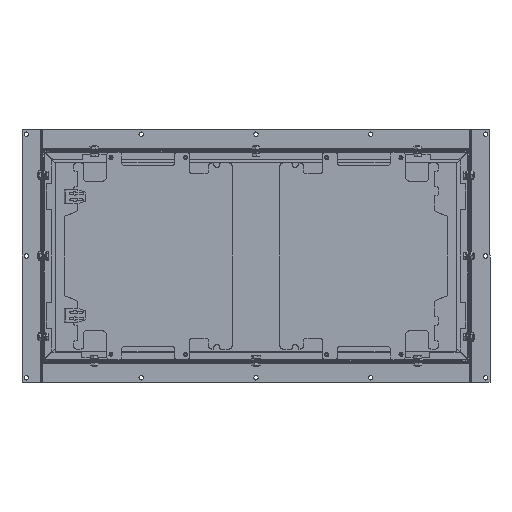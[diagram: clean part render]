
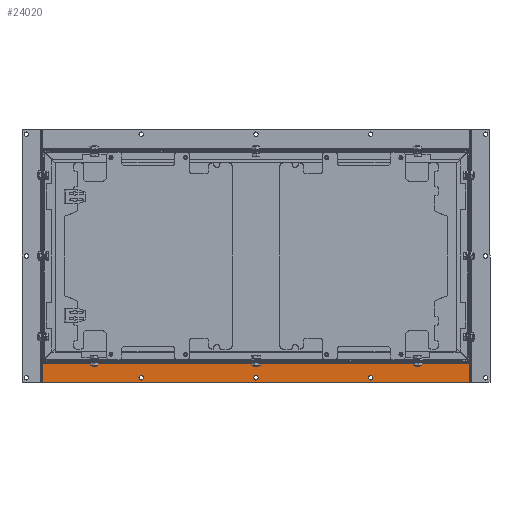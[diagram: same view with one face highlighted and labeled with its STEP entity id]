
A CAD part, front view. The second image highlights one B-rep face of the part: STEP entity #24020.
In plain terms, the highlighted planar face has unit normal (0, -1, 0).
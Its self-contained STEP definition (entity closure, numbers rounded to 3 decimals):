
#1014 = FACE_BOUND ( 'NONE', #46901, .T. ) ;
#1060 = CARTESIAN_POINT ( 'NONE',  ( -212.786, 1., -226. ) ) ;
#1394 = VECTOR ( 'NONE', #18277, 1000. ) ;
#1639 = DIRECTION ( 'NONE',  ( 0., 1., 0. ) ) ;
#1841 = DIRECTION ( 'NONE',  ( 0., 1., 0. ) ) ;
#1911 = VERTEX_POINT ( 'NONE', #36309 ) ;
#2635 = AXIS2_PLACEMENT_3D ( 'NONE', #1060, #59618, #59110 ) ;
#2832 = DIRECTION ( 'NONE',  ( 0., 0., -1. ) ) ;
#3156 = EDGE_CURVE ( 'NONE', #27635, #18925, #59965, .T. ) ;
#3172 = LINE ( 'NONE', #18085, #45046 ) ;
#4152 = CARTESIAN_POINT ( 'NONE',  ( 396.214, 1., -234. ) ) ;
#5004 = VERTEX_POINT ( 'NONE', #25391 ) ;
#5684 = ORIENTED_EDGE ( 'NONE', *, *, #3156, .T. ) ;
#6554 = VERTEX_POINT ( 'NONE', #61493 ) ;
#7152 = EDGE_CURVE ( 'NONE', #54547, #73920, #65801, .T. ) ;
#7921 = DIRECTION ( 'NONE',  ( 0., 0., -1. ) ) ;
#8133 = EDGE_CURVE ( 'NONE', #6554, #42869, #11890, .T. ) ;
#10285 = ORIENTED_EDGE ( 'NONE', *, *, #45305, .F. ) ;
#11890 = CIRCLE ( 'NONE', #2635, 4. ) ;
#15144 = CARTESIAN_POINT ( 'NONE',  ( 213.214, 1., -230. ) ) ;
#16354 = CARTESIAN_POINT ( 'NONE',  ( 0.214, 1., -226. ) ) ;
#17946 = PLANE ( 'NONE',  #28292 ) ;
#18085 = CARTESIAN_POINT ( 'NONE',  ( -395.786, 1., -200. ) ) ;
#18277 = DIRECTION ( 'NONE',  ( 0., 0., 1. ) ) ;
#18925 = VERTEX_POINT ( 'NONE', #15144 ) ;
#20772 = ORIENTED_EDGE ( 'NONE', *, *, #8133, .T. ) ;
#22196 = DIRECTION ( 'NONE',  ( 0., 0., -1. ) ) ;
#22550 = ORIENTED_EDGE ( 'NONE', *, *, #75018, .T. ) ;
#22588 = CARTESIAN_POINT ( 'NONE',  ( 0.214, 1., -222. ) ) ;
#22718 = CARTESIAN_POINT ( 'NONE',  ( -212.786, 1., -226. ) ) ;
#23335 = CARTESIAN_POINT ( 'NONE',  ( 213.214, 1., -222. ) ) ;
#23839 = CIRCLE ( 'NONE', #74772, 4. ) ;
#23871 = CARTESIAN_POINT ( 'NONE',  ( -395.786, 1., -234. ) ) ;
#24020 = ADVANCED_FACE ( 'NONE', ( #62946, #1014, #52921, #51120 ), #17946, .T. ) ;
#25391 = CARTESIAN_POINT ( 'NONE',  ( 396.214, 1., -200. ) ) ;
#26115 = CIRCLE ( 'NONE', #30408, 4. ) ;
#26436 = EDGE_LOOP ( 'NONE', ( #75163, #22550 ) ) ;
#27635 = VERTEX_POINT ( 'NONE', #23335 ) ;
#28292 = AXIS2_PLACEMENT_3D ( 'NONE', #64533, #35775, #29897 ) ;
#29279 = AXIS2_PLACEMENT_3D ( 'NONE', #22718, #64218, #46411 ) ;
#29897 = DIRECTION ( 'NONE',  ( 0., 0., 1. ) ) ;
#29977 = VERTEX_POINT ( 'NONE', #4152 ) ;
#30408 = AXIS2_PLACEMENT_3D ( 'NONE', #36961, #1841, #7921 ) ;
#31327 = CARTESIAN_POINT ( 'NONE',  ( 0.214, 1., -230. ) ) ;
#31647 = CARTESIAN_POINT ( 'NONE',  ( 396.214, 1., -234. ) ) ;
#33210 = ORIENTED_EDGE ( 'NONE', *, *, #48532, .F. ) ;
#35111 = DIRECTION ( 'NONE',  ( 0., 1., 0. ) ) ;
#35775 = DIRECTION ( 'NONE',  ( 0., -1., 0. ) ) ;
#36309 = CARTESIAN_POINT ( 'NONE',  ( -395.786, 1., -200. ) ) ;
#36961 = CARTESIAN_POINT ( 'NONE',  ( 0.214, 1., -226. ) ) ;
#37493 = EDGE_CURVE ( 'NONE', #29977, #65118, #65333, .T. ) ;
#37815 = ORIENTED_EDGE ( 'NONE', *, *, #37493, .F. ) ;
#40072 = LINE ( 'NONE', #48394, #51913 ) ;
#42869 = VERTEX_POINT ( 'NONE', #75481 ) ;
#45046 = VECTOR ( 'NONE', #75334, 1000. ) ;
#45305 = EDGE_CURVE ( 'NONE', #5004, #29977, #40072, .T. ) ;
#46411 = DIRECTION ( 'NONE',  ( 0., 0., -1. ) ) ;
#46810 = DIRECTION ( 'NONE',  ( 0., 0., -1. ) ) ;
#46901 = EDGE_LOOP ( 'NONE', ( #72688, #20772 ) ) ;
#48394 = CARTESIAN_POINT ( 'NONE',  ( 396.214, 1., -234. ) ) ;
#48532 = EDGE_CURVE ( 'NONE', #65118, #1911, #67818, .T. ) ;
#51120 = FACE_OUTER_BOUND ( 'NONE', #74770, .T. ) ;
#51913 = VECTOR ( 'NONE', #2832, 1000. ) ;
#52921 = FACE_BOUND ( 'NONE', #26436, .T. ) ;
#53988 = CIRCLE ( 'NONE', #29279, 4. ) ;
#54310 = CARTESIAN_POINT ( 'NONE',  ( 213.214, 1., -226. ) ) ;
#54446 = ORIENTED_EDGE ( 'NONE', *, *, #61118, .T. ) ;
#54547 = VERTEX_POINT ( 'NONE', #31327 ) ;
#55150 = ORIENTED_EDGE ( 'NONE', *, *, #68928, .F. ) ;
#58132 = AXIS2_PLACEMENT_3D ( 'NONE', #69943, #35111, #46810 ) ;
#59110 = DIRECTION ( 'NONE',  ( 0., 0., -1. ) ) ;
#59348 = EDGE_CURVE ( 'NONE', #42869, #6554, #53988, .T. ) ;
#59618 = DIRECTION ( 'NONE',  ( 0., 1., 0. ) ) ;
#59965 = CIRCLE ( 'NONE', #58132, 4. ) ;
#61118 = EDGE_CURVE ( 'NONE', #18925, #27635, #23839, .T. ) ;
#61493 = CARTESIAN_POINT ( 'NONE',  ( -212.786, 1., -222. ) ) ;
#61687 = VECTOR ( 'NONE', #66257, 1000. ) ;
#62946 = FACE_BOUND ( 'NONE', #72495, .T. ) ;
#64218 = DIRECTION ( 'NONE',  ( 0., 1., 0. ) ) ;
#64533 = CARTESIAN_POINT ( 'NONE',  ( 396.214, 1., -234. ) ) ;
#65118 = VERTEX_POINT ( 'NONE', #66141 ) ;
#65333 = LINE ( 'NONE', #31647, #61687 ) ;
#65801 = CIRCLE ( 'NONE', #75337, 4. ) ;
#66141 = CARTESIAN_POINT ( 'NONE',  ( -395.786, 1., -234. ) ) ;
#66257 = DIRECTION ( 'NONE',  ( -1., 0., 0. ) ) ;
#67818 = LINE ( 'NONE', #23871, #1394 ) ;
#68928 = EDGE_CURVE ( 'NONE', #1911, #5004, #3172, .T. ) ;
#69517 = DIRECTION ( 'NONE',  ( 0., 1., 0. ) ) ;
#69943 = CARTESIAN_POINT ( 'NONE',  ( 213.214, 1., -226. ) ) ;
#71347 = DIRECTION ( 'NONE',  ( 0., 0., -1. ) ) ;
#72495 = EDGE_LOOP ( 'NONE', ( #54446, #5684 ) ) ;
#72688 = ORIENTED_EDGE ( 'NONE', *, *, #59348, .T. ) ;
#73920 = VERTEX_POINT ( 'NONE', #22588 ) ;
#74770 = EDGE_LOOP ( 'NONE', ( #10285, #55150, #33210, #37815 ) ) ;
#74772 = AXIS2_PLACEMENT_3D ( 'NONE', #54310, #1639, #71347 ) ;
#75018 = EDGE_CURVE ( 'NONE', #73920, #54547, #26115, .T. ) ;
#75163 = ORIENTED_EDGE ( 'NONE', *, *, #7152, .T. ) ;
#75334 = DIRECTION ( 'NONE',  ( 1., 0., 0. ) ) ;
#75337 = AXIS2_PLACEMENT_3D ( 'NONE', #16354, #69517, #22196 ) ;
#75481 = CARTESIAN_POINT ( 'NONE',  ( -212.786, 1., -230. ) ) ;
